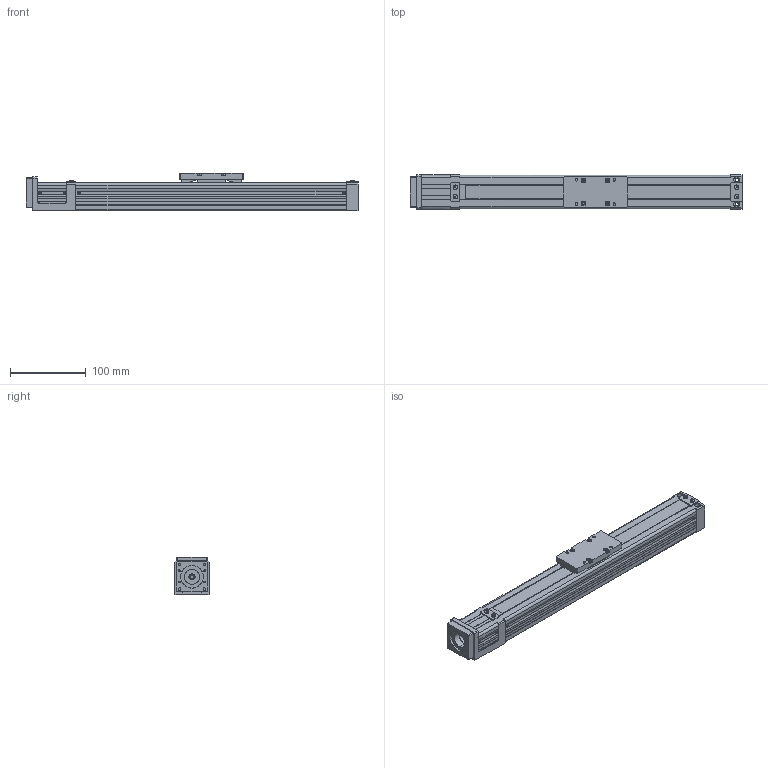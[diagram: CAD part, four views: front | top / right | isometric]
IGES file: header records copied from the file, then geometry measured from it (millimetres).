
Global section: file name: No Iges File Name specified; native system: AutoDesk Inventor R10; preprocessor: AutoDesk Inventor Iges Exporter R10; author: No Author specified; organization: No Organization specified; date: 20110617.143628; units: millimetre
Bounding box: 439 x 45 x 50 mm (x, y, z)
Surface area: 178448.4 mm2 (no closed solid volume)
Topology: 0 solids, 0 shells, 829 faces, 5484 edges, 5464 vertices
Faces by surface type: bspline 829
